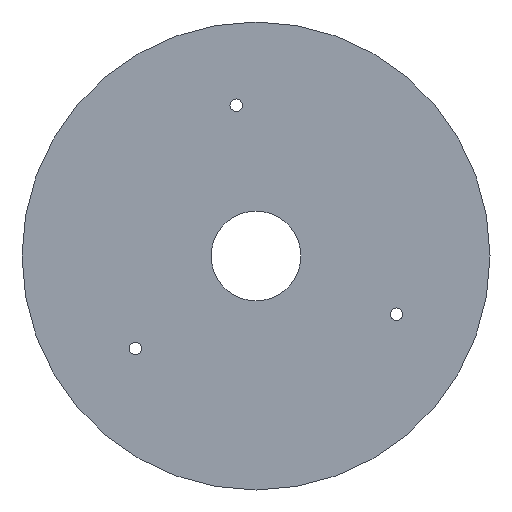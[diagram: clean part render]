
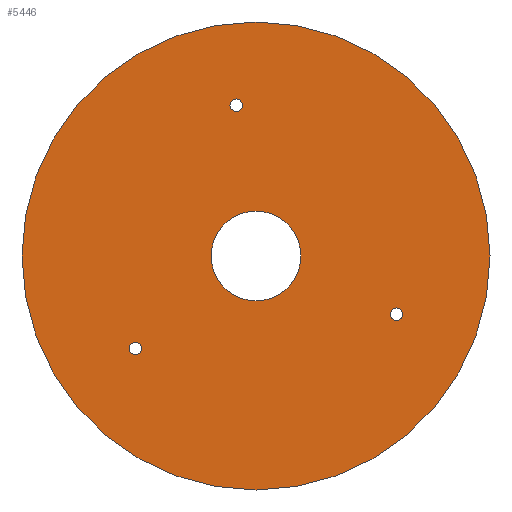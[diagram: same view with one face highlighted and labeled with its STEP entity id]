
A CAD part, front view. The second image highlights one B-rep face of the part: STEP entity #5446.
In plain terms, the highlighted planar face has unit normal (0, -1, 0).
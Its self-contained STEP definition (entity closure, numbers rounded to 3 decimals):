
#79 = AXIS2_PLACEMENT_3D ( 'NONE', #4813, #4812, #4811 ) ;
#96 = AXIS2_PLACEMENT_3D ( 'NONE', #4806, #4805, #4804 ) ;
#97 = CIRCLE ( 'NONE', #132, 5.75 ) ;
#98 = CIRCLE ( 'NONE', #113, 0.8 ) ;
#113 = AXIS2_PLACEMENT_3D ( 'NONE', #4785, #4642, #4641 ) ;
#128 = CIRCLE ( 'NONE', #79, 0.8 ) ;
#132 = AXIS2_PLACEMENT_3D ( 'NONE', #4792, #4791, #4790 ) ;
#148 = CIRCLE ( 'NONE', #96, 0.8 ) ;
#254 = ORIENTED_EDGE ( 'NONE', *, *, #5270, .F. ) ;
#255 = ORIENTED_EDGE ( 'NONE', *, *, #5269, .F. ) ;
#256 = ORIENTED_EDGE ( 'NONE', *, *, #5271, .F. ) ;
#257 = ORIENTED_EDGE ( 'NONE', *, *, #1131, .F. ) ;
#258 = ORIENTED_EDGE ( 'NONE', *, *, #5272, .F. ) ;
#259 = ORIENTED_EDGE ( 'NONE', *, *, #1125, .F. ) ;
#260 = ORIENTED_EDGE ( 'NONE', *, *, #5268, .F. ) ;
#261 = ORIENTED_EDGE ( 'NONE', *, *, #1133, .F. ) ;
#263 = ORIENTED_EDGE ( 'NONE', *, *, #1122, .F. ) ;
#264 = ORIENTED_EDGE ( 'NONE', *, *, #5265, .F. ) ;
#306 = VERTEX_POINT ( 'NONE', #472 ) ;
#311 = VERTEX_POINT ( 'NONE', #506 ) ;
#312 = VERTEX_POINT ( 'NONE', #505 ) ;
#315 = VERTEX_POINT ( 'NONE', #516 ) ;
#316 = VERTEX_POINT ( 'NONE', #518 ) ;
#319 = VERTEX_POINT ( 'NONE', #520 ) ;
#320 = VERTEX_POINT ( 'NONE', #479 ) ;
#323 = VERTEX_POINT ( 'NONE', #483 ) ;
#472 = CARTESIAN_POINT ( 'NONE',  ( -2.545, 0., 18.533 ) ) ;
#479 = CARTESIAN_POINT ( 'NONE',  ( -15.47, 0., -12.671 ) ) ;
#483 = CARTESIAN_POINT ( 'NONE',  ( -2.545, 0., 20.133 ) ) ;
#505 = CARTESIAN_POINT ( 'NONE',  ( 0., 0., -5.75 ) ) ;
#506 = CARTESIAN_POINT ( 'NONE',  ( 0., 0., 5.75 ) ) ;
#516 = CARTESIAN_POINT ( 'NONE',  ( 18.016, 0., -6.662 ) ) ;
#518 = CARTESIAN_POINT ( 'NONE',  ( 18.016, 0., -8.262 ) ) ;
#520 = CARTESIAN_POINT ( 'NONE',  ( -15.47, 0., -11.071 ) ) ;
#1122 = EDGE_CURVE ( 'NONE', #323, #306, #128, .T. ) ;
#1125 = EDGE_CURVE ( 'NONE', #315, #316, #148, .T. ) ;
#1131 = EDGE_CURVE ( 'NONE', #311, #312, #97, .T. ) ;
#1133 = EDGE_CURVE ( 'NONE', #319, #320, #98, .T. ) ;
#1169 = CARTESIAN_POINT ( 'NONE',  ( 0., 0., 30. ) ) ;
#1596 = DIRECTION ( 'NONE',  ( 0., 0., 1. ) ) ;
#1598 = DIRECTION ( 'NONE',  ( 0., 1., 0. ) ) ;
#1599 = CARTESIAN_POINT ( 'NONE',  ( 0., 0., 0. ) ) ;
#1600 = PLANE ( 'NONE',  #2439 ) ;
#2011 = EDGE_LOOP ( 'NONE', ( #255, #257 ) ) ;
#2021 = EDGE_LOOP ( 'NONE', ( #260, #264 ) ) ;
#2023 = EDGE_LOOP ( 'NONE', ( #256, #261 ) ) ;
#2024 = EDGE_LOOP ( 'NONE', ( #258, #263 ) ) ;
#2026 = EDGE_LOOP ( 'NONE', ( #254, #259 ) ) ;
#2232 = AXIS2_PLACEMENT_3D ( 'NONE', #3109, #3107, #3106 ) ;
#2234 = AXIS2_PLACEMENT_3D ( 'NONE', #3105, #3104, #3103 ) ;
#2439 = AXIS2_PLACEMENT_3D ( 'NONE', #1599, #1598, #1596 ) ;
#2668 = FACE_BOUND ( 'NONE', #2011, .T. ) ;
#2669 = FACE_BOUND ( 'NONE', #2026, .T. ) ;
#2670 = FACE_BOUND ( 'NONE', #2023, .T. ) ;
#2671 = FACE_BOUND ( 'NONE', #2024, .T. ) ;
#2672 = FACE_OUTER_BOUND ( 'NONE', #2021, .T. ) ;
#2950 = CIRCLE ( 'NONE', #2958, 30. ) ;
#2953 = CIRCLE ( 'NONE', #2967, 0.8 ) ;
#2955 = CIRCLE ( 'NONE', #2965, 5.75 ) ;
#2957 = CIRCLE ( 'NONE', #2963, 30. ) ;
#2958 = AXIS2_PLACEMENT_3D ( 'NONE', #3133, #3132, #3130 ) ;
#2962 = CIRCLE ( 'NONE', #2232, 0.8 ) ;
#2963 = AXIS2_PLACEMENT_3D ( 'NONE', #3121, #3120, #3118 ) ;
#2964 = CIRCLE ( 'NONE', #2234, 0.8 ) ;
#2965 = AXIS2_PLACEMENT_3D ( 'NONE', #3117, #3116, #3115 ) ;
#2967 = AXIS2_PLACEMENT_3D ( 'NONE', #3112, #3111, #3110 ) ;
#3103 = DIRECTION ( 'NONE',  ( 0., 0., -1. ) ) ;
#3104 = DIRECTION ( 'NONE',  ( 0., -1., 0. ) ) ;
#3105 = CARTESIAN_POINT ( 'NONE',  ( -2.545, 0., 19.333 ) ) ;
#3106 = DIRECTION ( 'NONE',  ( 0., 0., -1. ) ) ;
#3107 = DIRECTION ( 'NONE',  ( 0., -1., 0. ) ) ;
#3109 = CARTESIAN_POINT ( 'NONE',  ( -15.47, 0., -11.871 ) ) ;
#3110 = DIRECTION ( 'NONE',  ( 0., 0., -1. ) ) ;
#3111 = DIRECTION ( 'NONE',  ( 0., -1., 0. ) ) ;
#3112 = CARTESIAN_POINT ( 'NONE',  ( 18.016, 0., -7.462 ) ) ;
#3115 = DIRECTION ( 'NONE',  ( 0., 0., -1. ) ) ;
#3116 = DIRECTION ( 'NONE',  ( 0., -1., 0. ) ) ;
#3117 = CARTESIAN_POINT ( 'NONE',  ( 0., 0., 0. ) ) ;
#3118 = DIRECTION ( 'NONE',  ( 0., 0., 1. ) ) ;
#3120 = DIRECTION ( 'NONE',  ( 0., 1., 0. ) ) ;
#3121 = CARTESIAN_POINT ( 'NONE',  ( 0., 0., 0. ) ) ;
#3130 = DIRECTION ( 'NONE',  ( 0., 0., 1. ) ) ;
#3132 = DIRECTION ( 'NONE',  ( 0., 1., 0. ) ) ;
#3133 = CARTESIAN_POINT ( 'NONE',  ( 0., 0., 0. ) ) ;
#4256 = VERTEX_POINT ( 'NONE', #5840 ) ;
#4641 = DIRECTION ( 'NONE',  ( 0., 0., -1. ) ) ;
#4642 = DIRECTION ( 'NONE',  ( 0., -1., 0. ) ) ;
#4785 = CARTESIAN_POINT ( 'NONE',  ( -15.47, 0., -11.871 ) ) ;
#4790 = DIRECTION ( 'NONE',  ( 0., 0., -1. ) ) ;
#4791 = DIRECTION ( 'NONE',  ( 0., -1., 0. ) ) ;
#4792 = CARTESIAN_POINT ( 'NONE',  ( 0., 0., 0. ) ) ;
#4804 = DIRECTION ( 'NONE',  ( 0., 0., -1. ) ) ;
#4805 = DIRECTION ( 'NONE',  ( 0., -1., 0. ) ) ;
#4806 = CARTESIAN_POINT ( 'NONE',  ( 18.016, 0., -7.462 ) ) ;
#4811 = DIRECTION ( 'NONE',  ( 0., 0., -1. ) ) ;
#4812 = DIRECTION ( 'NONE',  ( 0., -1., 0. ) ) ;
#4813 = CARTESIAN_POINT ( 'NONE',  ( -2.545, 0., 19.333 ) ) ;
#5265 = EDGE_CURVE ( 'NONE', #6744, #4256, #2950, .T. ) ;
#5268 = EDGE_CURVE ( 'NONE', #4256, #6744, #2957, .T. ) ;
#5269 = EDGE_CURVE ( 'NONE', #312, #311, #2955, .T. ) ;
#5270 = EDGE_CURVE ( 'NONE', #316, #315, #2953, .T. ) ;
#5271 = EDGE_CURVE ( 'NONE', #320, #319, #2962, .T. ) ;
#5272 = EDGE_CURVE ( 'NONE', #306, #323, #2964, .T. ) ;
#5446 = ADVANCED_FACE ( 'NONE', ( #2668, #2669, #2670, #2671, #2672 ), #1600, .F. ) ;
#5840 = CARTESIAN_POINT ( 'NONE',  ( 0., 0., -30. ) ) ;
#6744 = VERTEX_POINT ( 'NONE', #1169 ) ;
